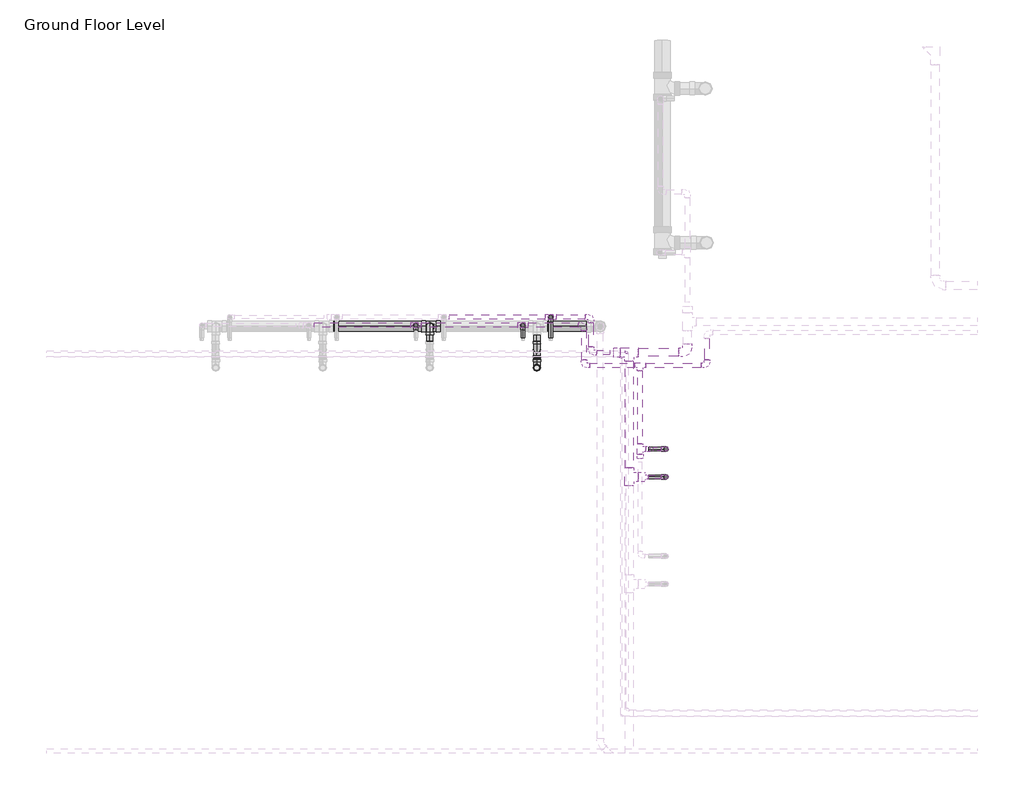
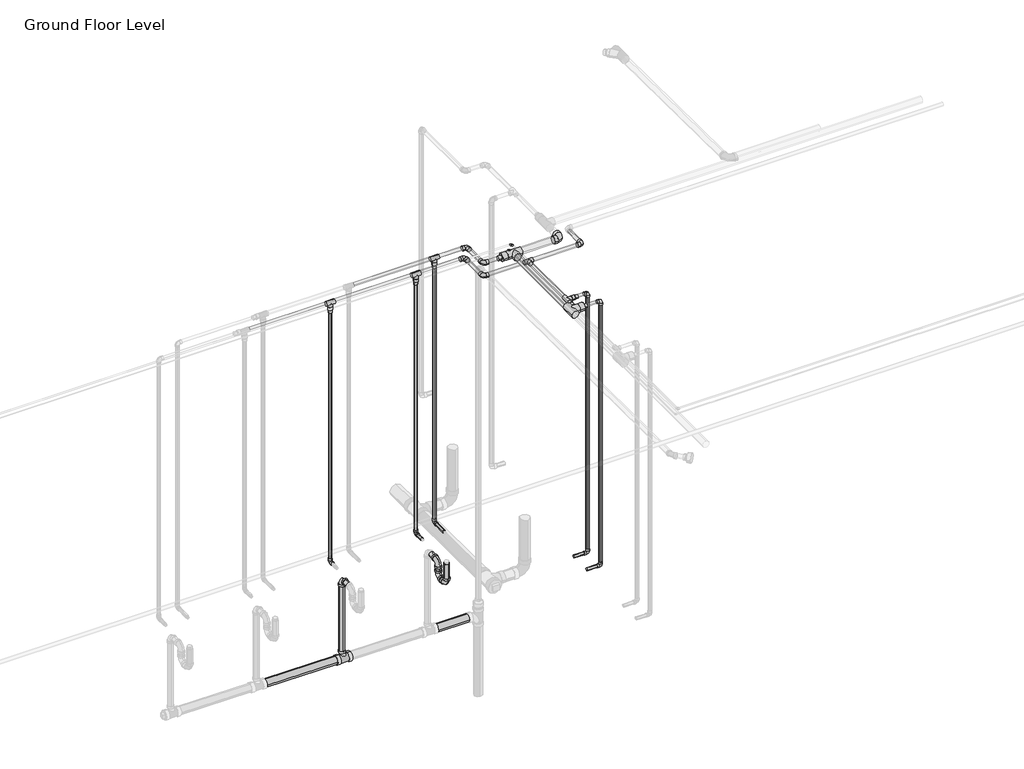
# One storey, part 8 of 75: 34 pipe fittings, 33 pipe segments.
"""IFC4 building model written with IfcOpenShell, lengths in millimetres."""

from ifc_helpers import new_model, si_unit, point, frame, frame_2d, origin, place, context, project, spatial, circle_curve, trimmed, segment, composite_curve, outline, extrude, transform, mapped, element, save
from components import m_bend_pvc_sch_40_dwv_standard_1e7bdcc1, m_bend_pvc_sch_40_dwv_standard_776e50c4, m_bend_pvc_sch_40_dwv_standard_213ff28c, m_elbow_generic_standard_a088f956, m_elbow_generic_standard_2a704253, m_tee_reducing_sanitary_pvc_sch_40_dwv_standard_21d2848c, standard_b266ab3f, standard_517a5a8d, standard_72b35c3b, standard_cd25fed3, standard_f1337950, standard_e954f56a, standard_57727813, standard_9d5ac8af

model = new_model("IFC4")

# Units and contexts
model_context = context("Model", 3, world=origin())
ifc_project = project(units=[si_unit("LENGTHUNIT", "METRE", prefix="MILLI")], contexts=[model_context])

# Site, building, storey
site = spatial("IfcSite", under=ifc_project)
building = spatial("IfcBuilding", under=site)
storey = spatial("IfcBuildingStorey", under=building, Name="Ground Floor Level", Elevation=900.0)

# Pipe fittings
placement = place(None, origin())
m_bend_pvc_sch_40_dwv_standard_shape = m_bend_pvc_sch_40_dwv_standard_1e7bdcc1(model_context)
element("IfcPipeFitting", 1, ObjectType="M_Bend - PVC - Sch 40 - DWV : Standard", at=placement, inside=storey, context=model_context, shape_type="MappedRepresentation", body=[
    mapped(m_bend_pvc_sch_40_dwv_standard_shape, transform((-1573.215321, -33168.3528578, 1345.0), x_axis=(0.0, -0.9999500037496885, 0.009999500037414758), y_axis=(0.0, 0.009999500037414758, 0.9999500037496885), z_axis=(-1.0, 0.0, 0.0))),
])
m_bend_pvc_sch_40_dwv_standard_2_shape = m_bend_pvc_sch_40_dwv_standard_776e50c4(model_context)
element("IfcPipeFitting", 2, ObjectType="M_Bend - PVC - Sch 40 - DWV : Standard", at=placement, inside=storey, context=model_context, shape_type="MappedRepresentation", body=[
    mapped(m_bend_pvc_sch_40_dwv_standard_2_shape, transform((-1573.215321, -33033.3528578, 1343.6), x_axis=(0.0, 0.9999500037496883, -0.009999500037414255), y_axis=(0.0, 0.009999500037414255, 0.9999500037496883), z_axis=(1.0, 0.0, 0.0))),
])
element("IfcPipeFitting", 3, ObjectType="M_Bend - PVC - Sch 40 - DWV : Standard", at=placement, inside=storey, context=model_context, shape_type="MappedRepresentation", body=[
    mapped(m_bend_pvc_sch_40_dwv_standard_2_shape, transform((-1573.215321, -33033.3528578, 1490.0), x_axis=(0.0, 0.0, 1.0), y_axis=(0.0, 1.0, 0.0), z_axis=(-1.0, 0.0, 0.0))),
])
m_bend_pvc_sch_40_dwv_standard_3_shape = m_bend_pvc_sch_40_dwv_standard_213ff28c(model_context)
element("IfcPipeFitting", 4, ObjectType="M_Bend - PVC - Sch 40 - DWV : Standard", at=placement, inside=storey, context=model_context, shape_type="MappedRepresentation", body=[
    mapped(m_bend_pvc_sch_40_dwv_standard_3_shape, transform((-2373.215321, -32858.7119065, 1488.3035905), x_axis=(0.0, 0.9999543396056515, -0.009556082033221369), y_axis=(0.0, -0.009556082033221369, -0.9999543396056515), z_axis=(-1.0, 0.0, 0.0))),
])
m_elbow_generic_standard_shape = m_elbow_generic_standard_a088f956(model_context)
element("IfcPipeFitting", 5, ObjectType="M_Elbow - Generic : Standard", at=placement, inside=storey, context=model_context, shape_type="MappedRepresentation", body=[
    mapped(m_elbow_generic_standard_shape, transform((-897.1048173, -33050.466218, 4390.0), x_axis=(0.0, 1.0, 0.0), y_axis=(-1.0, 0.0, 0.0), z_axis=(0.0, 0.0, 1.0))),
])
m_elbow_generic_standard_2_shape = m_elbow_generic_standard_2a704253(model_context)
element("IfcPipeFitting", 6, ObjectType="M_Elbow - Generic : Standard", at=placement, inside=storey, context=model_context, shape_type="MappedRepresentation", body=[
    mapped(m_elbow_generic_standard_2_shape, transform((-941.0095887, -33088.5402522, 4377.5), x_axis=(0.0, 1.0, 0.0), y_axis=(-1.0, 0.0, 0.0), z_axis=(0.0, 0.0, 1.0))),
])
m_tee_reducing_sanitary_pvc_sch_40_dwv_standard_shape = m_tee_reducing_sanitary_pvc_sch_40_dwv_standard_21d2848c(model_context)
element("IfcPipeFitting", 7, ObjectType="M_Tee Reducing Sanitary - PVC - Sch 40 - DWV : Standard", at=placement, inside=storey, context=model_context, shape_type="MappedRepresentation", body=[
    mapped(m_tee_reducing_sanitary_pvc_sch_40_dwv_standard_shape, transform((-2373.215321, -32858.7119065, 702.4349821), x_axis=(-0.9999500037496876, 0.0, 0.009999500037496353), y_axis=(-0.009999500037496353, 0.0, -0.9999500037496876), z_axis=(0.0, -1.0, 0.0))),
])
standard_shape = standard_b266ab3f(model_context)
element("IfcPipeFitting", 8, ObjectType="M_Elbow - CPVC - Sch 40 : Standard", at=placement, inside=storey, context=model_context, shape_type="MappedRepresentation", body=[
    mapped(standard_shape, transform((-1468.9004005, -32789.6855451, 1690.0), x_axis=(0.0, 0.0, -1.0), y_axis=(0.0, -1.0, 0.0), z_axis=(-1.0, 0.0, 0.0))),
])
element("IfcPipeFitting", 9, ObjectType="M_Elbow - CPVC - Sch 40 : Standard", at=placement, inside=storey, context=model_context, shape_type="MappedRepresentation", body=[
    mapped(standard_shape, transform((-607.2327605, -33985.0821277, 1690.0), x_axis=(1.0, 0.0, 0.0), y_axis=(0.0, 0.0, 1.0), z_axis=(0.0, -1.0, 0.0))),
])
element("IfcPipeFitting", 10, ObjectType="M_Elbow - CPVC - Sch 40 : Standard", at=placement, inside=storey, context=model_context, shape_type="MappedRepresentation", body=[
    mapped(standard_shape, transform((-607.2327605, -33985.0821277, 4300.0), x_axis=(0.0, 0.0, 1.0), y_axis=(-1.0, 0.0, 0.0), z_axis=(0.0, -1.0, 0.0))),
])
element("IfcPipeFitting", 11, ObjectType="M_Elbow - CPVC - Sch 40 : Standard", at=placement, inside=storey, context=model_context, shape_type="MappedRepresentation", body=[
    mapped(standard_shape, transform((-607.2327605, -33776.4522865, 1690.0), x_axis=(1.0, 0.0, 0.0), y_axis=(0.0, 0.0, 1.0), z_axis=(0.0, -1.0, 0.0))),
])
element("IfcPipeFitting", 12, ObjectType="M_Elbow - CPVC - Sch 40 : Standard", at=placement, inside=storey, context=model_context, shape_type="MappedRepresentation", body=[
    mapped(standard_shape, transform((-607.2327605, -33776.4522865, 4250.0), x_axis=(0.0, 0.0, 1.0), y_axis=(-1.0, 0.0, 0.0), z_axis=(0.0, -1.0, 0.0))),
])
element("IfcPipeFitting", 13, ObjectType="M_Elbow - CPVC - Sch 40 : Standard", at=placement, inside=storey, context=model_context, shape_type="MappedRepresentation", body=[
    mapped(standard_shape, transform((-1677.5302417, -32850.870708, 1690.0), x_axis=(0.0, 0.0, -1.0), y_axis=(0.0, -1.0, 0.0), z_axis=(-1.0, 0.0, 0.0))),
])
element("IfcPipeFitting", 14, ObjectType="M_Elbow - CPVC - Sch 40 : Standard", at=placement, inside=storey, context=model_context, shape_type="MappedRepresentation", body=[
    mapped(standard_shape, transform((-2477.5302417, -32850.870708, 1690.0), x_axis=(0.0, 0.0, -1.0), y_axis=(0.0, -1.0, 0.0), z_axis=(-1.0, 0.0, 0.0))),
])
standard_2_shape = standard_517a5a8d(model_context)
element("IfcPipeFitting", 15, ObjectType="M_Elbow - CPVC - Sch 40 : Standard", at=placement, inside=storey, context=model_context, shape_type="MappedRepresentation", body=[
    mapped(standard_2_shape, transform((-1167.2327605, -33054.6855451, 4300.0), x_axis=(0.0, -1.0, 0.0), y_axis=(1.0, 0.0, 0.0), z_axis=(0.0, 0.0, 1.0))),
])
element("IfcPipeFitting", 16, ObjectType="M_Elbow - CPVC - Sch 40 : Standard", at=placement, inside=storey, context=model_context, shape_type="MappedRepresentation", body=[
    mapped(standard_2_shape, transform((-1167.2327605, -32789.6855451, 4300.0), x_axis=(0.0, 1.0, 0.0), y_axis=(-1.0, 0.0, 0.0), z_axis=(0.0, 0.0, 1.0))),
])
element("IfcPipeFitting", 17, ObjectType="M_Elbow - CPVC - Sch 40 : Standard", at=placement, inside=storey, context=model_context, shape_type="MappedRepresentation", body=[
    mapped(standard_2_shape, transform((-299.4424198, -33150.870708, 4250.0), x_axis=(1.0, 0.0, 0.0), y_axis=(0.0, 1.0, 0.0), z_axis=(0.0, 0.0, 1.0))),
])
element("IfcPipeFitting", 18, ObjectType="M_Elbow - CPVC - Sch 40 : Standard", at=placement, inside=storey, context=model_context, shape_type="MappedRepresentation", body=[
    mapped(standard_2_shape, transform((-1219.9877664, -33150.870708, 4250.0), x_axis=(0.0, -1.0, 0.0), y_axis=(1.0, 0.0, 0.0), z_axis=(0.0, 0.0, 1.0))),
])
element("IfcPipeFitting", 19, ObjectType="M_Elbow - CPVC - Sch 40 : Standard", at=placement, inside=storey, context=model_context, shape_type="MappedRepresentation", body=[
    mapped(standard_2_shape, transform((-1219.9877664, -32850.870708, 4250.0), x_axis=(0.0, 1.0, 0.0), y_axis=(-1.0, 0.0, 0.0), z_axis=(0.0, 0.0, 1.0))),
])
standard_3_shape = standard_72b35c3b(model_context)
element("IfcPipeFitting", 20, ObjectType="M_Tee - CPVC - Sch 40 : Standard", at=placement, inside=storey, context=model_context, shape_type="MappedRepresentation", body=[
    mapped(standard_3_shape, transform((-1468.9004005, -32789.6855451, 4300.0), x_axis=(1.0, 0.0, 0.0), y_axis=(0.0, 0.0, 1.0), z_axis=(0.0, -1.0, 0.0))),
])
element("IfcPipeFitting", 21, ObjectType="M_Tee - CPVC - Sch 40 : Standard", at=placement, inside=storey, context=model_context, shape_type="MappedRepresentation", body=[
    mapped(standard_3_shape, transform((-800.2875664, -33150.870708, 4250.0), x_axis=(1.0, 0.0, 0.0), y_axis=(0.0, 1.0, 0.0), z_axis=(0.0, 0.0, 1.0))),
])
element("IfcPipeFitting", 22, ObjectType="M_Tee - CPVC - Sch 40 : Standard", at=placement, inside=storey, context=model_context, shape_type="MappedRepresentation", body=[
    mapped(standard_3_shape, transform((-800.2875664, -33776.4522865, 4250.0), x_axis=(0.0, 1.0, 0.0), y_axis=(-1.0, 0.0, 0.0), z_axis=(0.0, 0.0, 1.0))),
])
element("IfcPipeFitting", 23, ObjectType="M_Tee - CPVC - Sch 40 : Standard", at=placement, inside=storey, context=model_context, shape_type="MappedRepresentation", body=[
    mapped(standard_3_shape, transform((-1677.5302417, -32850.870708, 4250.0), x_axis=(1.0, 0.0, 0.0), y_axis=(0.0, 0.0, 1.0), z_axis=(0.0, -1.0, 0.0))),
])
element("IfcPipeFitting", 24, ObjectType="M_Tee - CPVC - Sch 40 : Standard", at=placement, inside=storey, context=model_context, shape_type="MappedRepresentation", body=[
    mapped(standard_3_shape, transform((-2477.5302417, -32850.870708, 4250.0), x_axis=(1.0, 0.0, 0.0), y_axis=(0.0, 0.0, 1.0), z_axis=(0.0, -1.0, 0.0))),
])
standard_4_shape = standard_cd25fed3(model_context)
element("IfcPipeFitting", 25, ObjectType="M_Tee - CPVC - Sch 40 : Standard", at=placement, inside=storey, context=model_context, shape_type="MappedRepresentation", body=[
    mapped(standard_4_shape, transform((-881.5205995, -33054.6855451, 4300.0), x_axis=(1.0, 0.0, 0.0), y_axis=(0.0, 1.0, 0.0), z_axis=(0.0, 0.0, 1.0))),
])
element("IfcPipeFitting", 26, ObjectType="M_Tee - CPVC - Sch 40 : Standard", at=placement, inside=storey, context=model_context, shape_type="MappedRepresentation", body=[
    mapped(standard_4_shape, transform((-881.5205995, -33985.0821277, 4300.0), x_axis=(0.0, -1.0, 0.0), y_axis=(-1.0, 0.0, 0.0), z_axis=(0.0, 0.0, -1.0))),
])
standard_5_shape = standard_f1337950(model_context)
element("IfcPipeFitting", 27, ObjectType="M_Coupling Reducing - CPVC - Sch 40 : Standard", at=placement, inside=storey, context=model_context, shape_type="MappedRepresentation", body=[
    mapped(standard_5_shape, transform((-948.1955995, -33054.6855451, 4300.0), x_axis=(-1.0, 0.0, 0.0), y_axis=(0.0, -1.0, 0.0), z_axis=(0.0, 0.0, 1.0))),
])
standard_6_shape = standard_e954f56a(model_context)
element("IfcPipeFitting", 28, ObjectType="M_Coupling Reducing - CPVC - Sch 40 : Standard", at=placement, inside=storey, context=model_context, shape_type="MappedRepresentation", body=[
    mapped(standard_6_shape, transform((-1468.9004005, -32789.6855451, 4260.2998), x_axis=(0.0, 0.0, -1.0), y_axis=(1.0, 0.0, 0.0), z_axis=(0.0, -1.0, 0.0))),
])
element("IfcPipeFitting", 29, ObjectType="M_Coupling Reducing - CPVC - Sch 40 : Standard", at=placement, inside=storey, context=model_context, shape_type="MappedRepresentation", body=[
    mapped(standard_6_shape, transform((-760.5873664, -33776.4522865, 4250.0), x_axis=(1.0, 0.0, 0.0), y_axis=(0.0, 1.0, 0.0), z_axis=(0.0, 0.0, 1.0))),
])
element("IfcPipeFitting", 30, ObjectType="M_Coupling Reducing - CPVC - Sch 40 : Standard", at=placement, inside=storey, context=model_context, shape_type="MappedRepresentation", body=[
    mapped(standard_6_shape, transform((-800.2875664, -33816.1524865, 4250.0), x_axis=(0.0, -1.0, 0.0), y_axis=(1.0, 0.0, 0.0), z_axis=(0.0, 0.0, 1.0))),
])
element("IfcPipeFitting", 31, ObjectType="M_Coupling Reducing - CPVC - Sch 40 : Standard", at=placement, inside=storey, context=model_context, shape_type="MappedRepresentation", body=[
    mapped(standard_6_shape, transform((-1677.5302417, -32850.870708, 4210.2998), x_axis=(0.0, 0.0, -1.0), y_axis=(1.0, 0.0, 0.0), z_axis=(0.0, -1.0, 0.0))),
])
element("IfcPipeFitting", 32, ObjectType="M_Coupling Reducing - CPVC - Sch 40 : Standard", at=placement, inside=storey, context=model_context, shape_type="MappedRepresentation", body=[
    mapped(standard_6_shape, transform((-2477.5302417, -32850.870708, 4210.2998), x_axis=(0.0, 0.0, -1.0), y_axis=(1.0, 0.0, 0.0), z_axis=(0.0, -1.0, 0.0))),
])
standard_7_shape = standard_57727813(model_context)
element("IfcPipeFitting", 33, ObjectType="M_Elbow - CPVC - Sch 40 : Standard", at=placement, inside=storey, context=model_context, shape_type="MappedRepresentation", body=[
    mapped(standard_7_shape, transform((-447.2327605, -33054.6855451, 4300.0), x_axis=(1.0, 0.0, 0.0), y_axis=(0.0, 1.0, 0.0), z_axis=(0.0, 0.0, 1.0))),
])
standard_8_shape = standard_9d5ac8af(model_context)
element("IfcPipeFitting", 34, ObjectType="M_Coupling Reducing - CPVC - Sch 40 : Standard", at=placement, inside=storey, context=model_context, shape_type="MappedRepresentation", body=[
    mapped(standard_8_shape, transform((-814.8455995, -33985.0821277, 4300.0), x_axis=(1.0, 0.0, 0.0), y_axis=(0.0, 1.0, 0.0), z_axis=(0.0, 0.0, 1.0))),
])

# Pipe segments
element("IfcPipeSegment", 35, ObjectType="CPVC", at=placement, inside=storey, context=model_context, shape_type="SweptSolid", body=[
    extrude(outline(composite_curve([segment(trimmed(circle_curve(frame_2d((4300.0, -1167.2327605)), 16.7005), [point((4300.0, -1150.5322605))], [point((4316.7005, -1167.2327605))], False, "CARTESIAN"), True, "CONTINUOUS"), segment(trimmed(circle_curve(frame_2d((4300.0, -1167.2327605)), 16.7005), [point((4316.7005, -1167.2327605))], [point((4300.0, -1183.9332605))], False, "CARTESIAN"), True, "CONTINUOUS"), segment(trimmed(circle_curve(frame_2d((4300.0, -1167.2327605)), 16.7005), [point((4300.0, -1183.9332605))], [point((4283.2995, -1167.2327605))], False, "CARTESIAN"), True, "CONTINUOUS"), segment(trimmed(circle_curve(frame_2d((4300.0, -1167.2327605)), 16.7005), [point((4283.2995, -1167.2327605))], [point((4300.0, -1150.5322605))], False, "CARTESIAN"), True, "CONTINUOUS")], self_intersect=False)), frame((0.0, -33011.4229951, 0.0), z_axis=(0.0, 1.0, 0.0), x_axis=(0.0, 0.0, 1.0)), (0.0, 0.0, 1.0), 178.4749),
])
element("IfcPipeSegment", 36, ObjectType="CPVC", at=placement, inside=storey, context=model_context, shape_type="SweptSolid", body=[
    extrude(outline(composite_curve([segment(trimmed(circle_curve(frame_2d((-33054.6855451, 4300.0)), 16.7005), [point((-33037.9850451, 4300.0))], [point((-33054.6855451, 4283.2995))], False, "CARTESIAN"), True, "CONTINUOUS"), segment(trimmed(circle_curve(frame_2d((-33054.6855451, 4300.0)), 16.7005), [point((-33054.6855451, 4283.2995))], [point((-33071.3860451, 4300.0))], False, "CARTESIAN"), True, "CONTINUOUS"), segment(trimmed(circle_curve(frame_2d((-33054.6855451, 4300.0)), 16.7005), [point((-33071.3860451, 4300.0))], [point((-33054.6855451, 4316.7005))], False, "CARTESIAN"), True, "CONTINUOUS"), segment(trimmed(circle_curve(frame_2d((-33054.6855451, 4300.0)), 16.7005), [point((-33054.6855451, 4316.7005))], [point((-33037.9850451, 4300.0))], False, "CARTESIAN"), True, "CONTINUOUS")], self_intersect=False)), frame((-1123.9702105, 0.0, 0.0), z_axis=(1.0, 0.0, 0.0), x_axis=(0.0, 1.0, 0.0)), (0.0, 0.0, 1.0), 95.975736),
])
element("IfcPipeSegment", 37, ObjectType="CPVC", at=placement, inside=storey, context=model_context, shape_type="SweptSolid", body=[
    extrude(outline(composite_curve([segment(trimmed(circle_curve(frame_2d((1690.0, -1468.9004005)), 13.335), [point((1690.0, -1482.2354005))], [point((1676.665, -1468.9004005))], False, "CARTESIAN"), True, "CONTINUOUS"), segment(trimmed(circle_curve(frame_2d((1690.0, -1468.9004005)), 13.335), [point((1676.665, -1468.9004005))], [point((1690.0, -1455.5654005))], False, "CARTESIAN"), True, "CONTINUOUS"), segment(trimmed(circle_curve(frame_2d((1690.0, -1468.9004005)), 13.335), [point((1690.0, -1455.5654005))], [point((1703.335, -1468.9004005))], False, "CARTESIAN"), True, "CONTINUOUS"), segment(trimmed(circle_curve(frame_2d((1690.0, -1468.9004005)), 13.335), [point((1703.335, -1468.9004005))], [point((1690.0, -1482.2354005))], False, "CARTESIAN"), True, "CONTINUOUS")], self_intersect=False)), frame((0.0, -32944.7846466, 0.0), z_axis=(0.0, 1.0, 0.0), x_axis=(0.0, 0.0, 1.0)), (0.0, 0.0, 1.0), 119.7740515),
])
element("IfcPipeSegment", 38, ObjectType="CPVC", at=placement, inside=storey, context=model_context, shape_type="SweptSolid", body=[
    extrude(outline(composite_curve([segment(trimmed(circle_curve(frame_2d((-1468.9004005, -32789.6855451)), 13.335), [point((-1455.5654005, -32789.6855451))], [point((-1468.9004005, -32803.0205451))], False, "CARTESIAN"), True, "CONTINUOUS"), segment(trimmed(circle_curve(frame_2d((-1468.9004005, -32789.6855451)), 13.335), [point((-1468.9004005, -32803.0205451))], [point((-1482.2354005, -32789.6855451))], False, "CARTESIAN"), True, "CONTINUOUS"), segment(trimmed(circle_curve(frame_2d((-1468.9004005, -32789.6855451)), 13.335), [point((-1482.2354005, -32789.6855451))], [point((-1468.9004005, -32776.3505451))], False, "CARTESIAN"), True, "CONTINUOUS"), segment(trimmed(circle_curve(frame_2d((-1468.9004005, -32789.6855451)), 13.335), [point((-1468.9004005, -32776.3505451))], [point((-1455.5654005, -32789.6855451))], False, "CARTESIAN"), True, "CONTINUOUS")], self_intersect=False)), frame((0.0, 0.0, 1725.32505), z_axis=(0.0, 0.0, 1.0), x_axis=(1.0, 0.0, 0.0)), (0.0, 0.0, 1.0), 2477.82475),
])
element("IfcPipeSegment", 39, ObjectType="CPVC", at=placement, inside=storey, context=model_context, shape_type="SweptSolid", body=[
    extrude(outline(composite_curve([segment(trimmed(circle_curve(frame_2d((-32789.6855451, 4300.0)), 16.7005), [point((-32772.9850451, 4300.0))], [point((-32789.6855451, 4283.2995))], False, "CARTESIAN"), True, "CONTINUOUS"), segment(trimmed(circle_curve(frame_2d((-32789.6855451, 4300.0)), 16.7005), [point((-32789.6855451, 4283.2995))], [point((-32806.3860451, 4300.0))], False, "CARTESIAN"), True, "CONTINUOUS"), segment(trimmed(circle_curve(frame_2d((-32789.6855451, 4300.0)), 16.7005), [point((-32806.3860451, 4300.0))], [point((-32789.6855451, 4316.7005))], False, "CARTESIAN"), True, "CONTINUOUS"), segment(trimmed(circle_curve(frame_2d((-32789.6855451, 4300.0)), 16.7005), [point((-32789.6855451, 4316.7005))], [point((-32772.9850451, 4300.0))], False, "CARTESIAN"), True, "CONTINUOUS")], self_intersect=False)), frame((-1429.2002005, 0.0, 0.0), z_axis=(1.0, 0.0, 0.0), x_axis=(0.0, 1.0, 0.0)), (0.0, 0.0, 1.0), 218.70489),
])
element("IfcPipeSegment", 40, ObjectType="CPVC", at=placement, inside=storey, context=model_context, shape_type="SweptSolid", body=[
    extrude(outline(composite_curve([segment(trimmed(circle_curve(frame_2d((-32789.6855451, 4300.0)), 16.7005), [point((-32772.9850451, 4300.0))], [point((-32789.6855451, 4283.2995))], False, "CARTESIAN"), True, "CONTINUOUS"), segment(trimmed(circle_curve(frame_2d((-32789.6855451, 4300.0)), 16.7005), [point((-32789.6855451, 4283.2995))], [point((-32806.3860451, 4300.0))], False, "CARTESIAN"), True, "CONTINUOUS"), segment(trimmed(circle_curve(frame_2d((-32789.6855451, 4300.0)), 16.7005), [point((-32806.3860451, 4300.0))], [point((-32789.6855451, 4316.7005))], False, "CARTESIAN"), True, "CONTINUOUS"), segment(trimmed(circle_curve(frame_2d((-32789.6855451, 4300.0)), 16.7005), [point((-32789.6855451, 4316.7005))], [point((-32772.9850451, 4300.0))], False, "CARTESIAN"), True, "CONTINUOUS")], self_intersect=False)), frame((-2229.2002005, 0.0, 0.0), z_axis=(1.0, 0.0, 0.0), x_axis=(0.0, 1.0, 0.0)), (0.0, 0.0, 1.0), 720.5996),
])
element("IfcPipeSegment", 41, ObjectType="CPVC", at=placement, inside=storey, context=model_context, shape_type="SweptSolid", body=[
    extrude(outline(composite_curve([segment(trimmed(circle_curve(frame_2d((-33054.6855451, 4300.0)), 30.1625), [point((-33024.5230451, 4300.0))], [point((-33054.6855451, 4269.8375))], False, "CARTESIAN"), True, "CONTINUOUS"), segment(trimmed(circle_curve(frame_2d((-33054.6855451, 4300.0)), 30.1625), [point((-33054.6855451, 4269.8375))], [point((-33084.8480451, 4300.0))], False, "CARTESIAN"), True, "CONTINUOUS"), segment(trimmed(circle_curve(frame_2d((-33054.6855451, 4300.0)), 30.1625), [point((-33084.8480451, 4300.0))], [point((-33054.6855451, 4330.1625))], False, "CARTESIAN"), True, "CONTINUOUS"), segment(trimmed(circle_curve(frame_2d((-33054.6855451, 4300.0)), 30.1625), [point((-33054.6855451, 4330.1625))], [point((-33024.5230451, 4300.0))], False, "CARTESIAN"), True, "CONTINUOUS")], self_intersect=False)), frame((-814.8455995, 0.0, 0.0), z_axis=(1.0, 0.0, 0.0), x_axis=(0.0, 1.0, 0.0)), (0.0, 0.0, 1.0), 303.319089),
])
element("IfcPipeSegment", 42, ObjectType="CPVC", at=placement, inside=storey, context=model_context, shape_type="SweptSolid", body=[
    extrude(outline(composite_curve([segment(trimmed(circle_curve(frame_2d((-33985.0821277, 1690.0)), 13.335), [point((-33998.4171277, 1690.0))], [point((-33985.0821277, 1703.335))], False, "CARTESIAN"), True, "CONTINUOUS"), segment(trimmed(circle_curve(frame_2d((-33985.0821277, 1690.0)), 13.335), [point((-33985.0821277, 1703.335))], [point((-33971.7471277, 1690.0))], False, "CARTESIAN"), True, "CONTINUOUS"), segment(trimmed(circle_curve(frame_2d((-33985.0821277, 1690.0)), 13.335), [point((-33971.7471277, 1690.0))], [point((-33985.0821277, 1676.665))], False, "CARTESIAN"), True, "CONTINUOUS"), segment(trimmed(circle_curve(frame_2d((-33985.0821277, 1690.0)), 13.335), [point((-33985.0821277, 1676.665))], [point((-33998.4171277, 1690.0))], False, "CARTESIAN"), True, "CONTINUOUS")], self_intersect=False)), frame((-737.2327605, 0.0, 0.0), z_axis=(1.0, 0.0, 0.0), x_axis=(0.0, 1.0, 0.0)), (0.0, 0.0, 1.0), 94.67495),
])
element("IfcPipeSegment", 43, ObjectType="CPVC", at=placement, inside=storey, context=model_context, shape_type="SweptSolid", body=[
    extrude(outline(composite_curve([segment(trimmed(circle_curve(frame_2d((-33985.0821277, 4300.0)), 13.335), [point((-33998.4171277, 4300.0))], [point((-33985.0821277, 4313.335))], False, "CARTESIAN"), True, "CONTINUOUS"), segment(trimmed(circle_curve(frame_2d((-33985.0821277, 4300.0)), 13.335), [point((-33985.0821277, 4313.335))], [point((-33971.7471277, 4300.0))], False, "CARTESIAN"), True, "CONTINUOUS"), segment(trimmed(circle_curve(frame_2d((-33985.0821277, 4300.0)), 13.335), [point((-33971.7471277, 4300.0))], [point((-33985.0821277, 4286.665))], False, "CARTESIAN"), True, "CONTINUOUS"), segment(trimmed(circle_curve(frame_2d((-33985.0821277, 4300.0)), 13.335), [point((-33985.0821277, 4286.665))], [point((-33998.4171277, 4300.0))], False, "CARTESIAN"), True, "CONTINUOUS")], self_intersect=False)), frame((-738.3487245, 0.0, 0.0), z_axis=(1.0, 0.0, 0.0), x_axis=(0.0, 1.0, 0.0)), (0.0, 0.0, 1.0), 95.790914),
])
element("IfcPipeSegment", 44, ObjectType="CPVC", at=placement, inside=storey, context=model_context, shape_type="SweptSolid", body=[
    extrude(outline(composite_curve([segment(trimmed(circle_curve(frame_2d((-607.2327605, -33985.0821277)), 13.335), [point((-620.5677605, -33985.0821277))], [point((-607.2327605, -33971.7471277))], False, "CARTESIAN"), True, "CONTINUOUS"), segment(trimmed(circle_curve(frame_2d((-607.2327605, -33985.0821277)), 13.335), [point((-607.2327605, -33971.7471277))], [point((-593.8977605, -33985.0821277))], False, "CARTESIAN"), True, "CONTINUOUS"), segment(trimmed(circle_curve(frame_2d((-607.2327605, -33985.0821277)), 13.335), [point((-593.8977605, -33985.0821277))], [point((-607.2327605, -33998.4171277))], False, "CARTESIAN"), True, "CONTINUOUS"), segment(trimmed(circle_curve(frame_2d((-607.2327605, -33985.0821277)), 13.335), [point((-607.2327605, -33998.4171277))], [point((-620.5677605, -33985.0821277))], False, "CARTESIAN"), True, "CONTINUOUS")], self_intersect=False)), frame((0.0, 0.0, 1725.32505), z_axis=(0.0, 0.0, 1.0), x_axis=(1.0, 0.0, 0.0)), (0.0, 0.0, 1.0), 2539.3499),
])
element("IfcPipeSegment", 45, ObjectType="CPVC", at=placement, inside=storey, context=model_context, shape_type="SweptSolid", body=[
    extrude(outline(composite_curve([segment(trimmed(circle_curve(frame_2d((4300.0, -881.5205995)), 30.1625), [point((4300.0, -911.6830995))], [point((4269.8375, -881.5205995))], False, "CARTESIAN"), True, "CONTINUOUS"), segment(trimmed(circle_curve(frame_2d((4300.0, -881.5205995)), 30.1625), [point((4269.8375, -881.5205995))], [point((4300.0, -851.3580995))], False, "CARTESIAN"), True, "CONTINUOUS"), segment(trimmed(circle_curve(frame_2d((4300.0, -881.5205995)), 30.1625), [point((4300.0, -851.3580995))], [point((4330.1625, -881.5205995))], False, "CARTESIAN"), True, "CONTINUOUS"), segment(trimmed(circle_curve(frame_2d((4300.0, -881.5205995)), 30.1625), [point((4330.1625, -881.5205995))], [point((4300.0, -911.6830995))], False, "CARTESIAN"), True, "CONTINUOUS")], self_intersect=False)), frame((0.0, -33918.4071277, 0.0), z_axis=(0.0, 1.0, 0.0), x_axis=(0.0, 0.0, 1.0)), (0.0, 0.0, 1.0), 797.0465826),
])
element("IfcPipeSegment", 46, ObjectType="CPVC", at=placement, inside=storey, context=model_context, shape_type="SweptSolid", body=[
    extrude(outline(composite_curve([segment(trimmed(circle_curve(frame_2d((4250.0, -299.4424198)), 16.7005), [point((4250.0, -316.1429198))], [point((4233.2995, -299.4424198))], False, "CARTESIAN"), True, "CONTINUOUS"), segment(trimmed(circle_curve(frame_2d((4250.0, -299.4424198)), 16.7005), [point((4233.2995, -299.4424198))], [point((4250.0, -282.7419198))], False, "CARTESIAN"), True, "CONTINUOUS"), segment(trimmed(circle_curve(frame_2d((4250.0, -299.4424198)), 16.7005), [point((4250.0, -282.7419198))], [point((4266.7005, -299.4424198))], False, "CARTESIAN"), True, "CONTINUOUS"), segment(trimmed(circle_curve(frame_2d((4250.0, -299.4424198)), 16.7005), [point((4266.7005, -299.4424198))], [point((4250.0, -316.1429198))], False, "CARTESIAN"), True, "CONTINUOUS")], self_intersect=False)), frame((0.0, -33107.608158, 0.0), z_axis=(0.0, 1.0, 0.0), x_axis=(0.0, 0.0, 1.0)), (0.0, 0.0, 1.0), 158.4749),
])
element("IfcPipeSegment", 47, ObjectType="CPVC", at=placement, inside=storey, context=model_context, shape_type="SweptSolid", body=[
    extrude(outline(composite_curve([segment(trimmed(circle_curve(frame_2d((-33150.870708, 4250.0)), 16.7005), [point((-33134.170208, 4250.0))], [point((-33150.870708, 4233.2995))], False, "CARTESIAN"), True, "CONTINUOUS"), segment(trimmed(circle_curve(frame_2d((-33150.870708, 4250.0)), 16.7005), [point((-33150.870708, 4233.2995))], [point((-33167.571208, 4250.0))], False, "CARTESIAN"), True, "CONTINUOUS"), segment(trimmed(circle_curve(frame_2d((-33150.870708, 4250.0)), 16.7005), [point((-33167.571208, 4250.0))], [point((-33150.870708, 4266.7005))], False, "CARTESIAN"), True, "CONTINUOUS"), segment(trimmed(circle_curve(frame_2d((-33150.870708, 4250.0)), 16.7005), [point((-33150.870708, 4266.7005))], [point((-33134.170208, 4250.0))], False, "CARTESIAN"), True, "CONTINUOUS")], self_intersect=False)), frame((-1176.7252164, 0.0, 0.0), z_axis=(1.0, 0.0, 0.0), x_axis=(0.0, 1.0, 0.0)), (0.0, 0.0, 1.0), 336.73745),
])
element("IfcPipeSegment", 48, ObjectType="CPVC", at=placement, inside=storey, context=model_context, shape_type="SweptSolid", body=[
    extrude(outline(composite_curve([segment(trimmed(circle_curve(frame_2d((-33150.870708, 4250.0)), 16.7005), [point((-33134.170208, 4250.0))], [point((-33150.870708, 4233.2995))], False, "CARTESIAN"), True, "CONTINUOUS"), segment(trimmed(circle_curve(frame_2d((-33150.870708, 4250.0)), 16.7005), [point((-33150.870708, 4233.2995))], [point((-33167.571208, 4250.0))], False, "CARTESIAN"), True, "CONTINUOUS"), segment(trimmed(circle_curve(frame_2d((-33150.870708, 4250.0)), 16.7005), [point((-33167.571208, 4250.0))], [point((-33150.870708, 4266.7005))], False, "CARTESIAN"), True, "CONTINUOUS"), segment(trimmed(circle_curve(frame_2d((-33150.870708, 4250.0)), 16.7005), [point((-33150.870708, 4266.7005))], [point((-33134.170208, 4250.0))], False, "CARTESIAN"), True, "CONTINUOUS")], self_intersect=False)), frame((-760.5873664, 0.0, 0.0), z_axis=(1.0, 0.0, 0.0), x_axis=(0.0, 1.0, 0.0)), (0.0, 0.0, 1.0), 417.8823966),
])
element("IfcPipeSegment", 49, ObjectType="CPVC", at=placement, inside=storey, context=model_context, shape_type="SweptSolid", body=[
    extrude(outline(composite_curve([segment(trimmed(circle_curve(frame_2d((-33776.4522865, 1690.0)), 13.335), [point((-33789.7872865, 1690.0))], [point((-33776.4522865, 1703.335))], False, "CARTESIAN"), True, "CONTINUOUS"), segment(trimmed(circle_curve(frame_2d((-33776.4522865, 1690.0)), 13.335), [point((-33776.4522865, 1703.335))], [point((-33763.1172865, 1690.0))], False, "CARTESIAN"), True, "CONTINUOUS"), segment(trimmed(circle_curve(frame_2d((-33776.4522865, 1690.0)), 13.335), [point((-33763.1172865, 1690.0))], [point((-33776.4522865, 1676.665))], False, "CARTESIAN"), True, "CONTINUOUS"), segment(trimmed(circle_curve(frame_2d((-33776.4522865, 1690.0)), 13.335), [point((-33776.4522865, 1676.665))], [point((-33789.7872865, 1690.0))], False, "CARTESIAN"), True, "CONTINUOUS")], self_intersect=False)), frame((-737.2327605, 0.0, 0.0), z_axis=(1.0, 0.0, 0.0), x_axis=(0.0, 1.0, 0.0)), (0.0, 0.0, 1.0), 94.67495),
])
element("IfcPipeSegment", 50, ObjectType="CPVC", at=placement, inside=storey, context=model_context, shape_type="SweptSolid", body=[
    extrude(outline(composite_curve([segment(trimmed(circle_curve(frame_2d((-33776.4522865, 4250.0)), 13.335), [point((-33789.7872865, 4250.0))], [point((-33776.4522865, 4263.335))], False, "CARTESIAN"), True, "CONTINUOUS"), segment(trimmed(circle_curve(frame_2d((-33776.4522865, 4250.0)), 13.335), [point((-33776.4522865, 4263.335))], [point((-33763.1172865, 4250.0))], False, "CARTESIAN"), True, "CONTINUOUS"), segment(trimmed(circle_curve(frame_2d((-33776.4522865, 4250.0)), 13.335), [point((-33763.1172865, 4250.0))], [point((-33776.4522865, 4236.665))], False, "CARTESIAN"), True, "CONTINUOUS"), segment(trimmed(circle_curve(frame_2d((-33776.4522865, 4250.0)), 13.335), [point((-33776.4522865, 4236.665))], [point((-33789.7872865, 4250.0))], False, "CARTESIAN"), True, "CONTINUOUS")], self_intersect=False)), frame((-703.4373664, 0.0, 0.0), z_axis=(1.0, 0.0, 0.0), x_axis=(0.0, 1.0, 0.0)), (0.0, 0.0, 1.0), 60.8795559),
])
element("IfcPipeSegment", 51, ObjectType="CPVC", at=placement, inside=storey, context=model_context, shape_type="SweptSolid", body=[
    extrude(outline(composite_curve([segment(trimmed(circle_curve(frame_2d((-607.2327605, -33776.4522865)), 13.335), [point((-620.5677605, -33776.4522865))], [point((-607.2327605, -33763.1172865))], False, "CARTESIAN"), True, "CONTINUOUS"), segment(trimmed(circle_curve(frame_2d((-607.2327605, -33776.4522865)), 13.335), [point((-607.2327605, -33763.1172865))], [point((-593.8977605, -33776.4522865))], False, "CARTESIAN"), True, "CONTINUOUS"), segment(trimmed(circle_curve(frame_2d((-607.2327605, -33776.4522865)), 13.335), [point((-593.8977605, -33776.4522865))], [point((-607.2327605, -33789.7872865))], False, "CARTESIAN"), True, "CONTINUOUS"), segment(trimmed(circle_curve(frame_2d((-607.2327605, -33776.4522865)), 13.335), [point((-607.2327605, -33789.7872865))], [point((-620.5677605, -33776.4522865))], False, "CARTESIAN"), True, "CONTINUOUS")], self_intersect=False)), frame((0.0, 0.0, 1725.32505), z_axis=(0.0, 0.0, 1.0), x_axis=(1.0, 0.0, 0.0)), (0.0, 0.0, 1.0), 2489.3499),
])
element("IfcPipeSegment", 52, ObjectType="CPVC", at=placement, inside=storey, context=model_context, shape_type="SweptSolid", body=[
    extrude(outline(composite_curve([segment(trimmed(circle_curve(frame_2d((4250.0, -800.2875664)), 16.7005), [point((4250.0, -816.9880664))], [point((4233.2995, -800.2875664))], False, "CARTESIAN"), True, "CONTINUOUS"), segment(trimmed(circle_curve(frame_2d((4250.0, -800.2875664)), 16.7005), [point((4233.2995, -800.2875664))], [point((4250.0, -783.5870664))], False, "CARTESIAN"), True, "CONTINUOUS"), segment(trimmed(circle_curve(frame_2d((4250.0, -800.2875664)), 16.7005), [point((4250.0, -783.5870664))], [point((4266.7005, -800.2875664))], False, "CARTESIAN"), True, "CONTINUOUS"), segment(trimmed(circle_curve(frame_2d((4250.0, -800.2875664)), 16.7005), [point((4266.7005, -800.2875664))], [point((4250.0, -816.9880664))], False, "CARTESIAN"), True, "CONTINUOUS")], self_intersect=False)), frame((0.0, -33736.7520865, 0.0), z_axis=(0.0, 1.0, 0.0), x_axis=(0.0, 0.0, 1.0)), (0.0, 0.0, 1.0), 546.1811785),
])
element("IfcPipeSegment", 53, ObjectType="CPVC", at=placement, inside=storey, context=model_context, shape_type="SweptSolid", body=[
    extrude(outline(composite_curve([segment(trimmed(circle_curve(frame_2d((4250.0, -1219.9877664)), 16.7005), [point((4250.0, -1203.2872664))], [point((4266.7005, -1219.9877664))], False, "CARTESIAN"), True, "CONTINUOUS"), segment(trimmed(circle_curve(frame_2d((4250.0, -1219.9877664)), 16.7005), [point((4266.7005, -1219.9877664))], [point((4250.0, -1236.6882664))], False, "CARTESIAN"), True, "CONTINUOUS"), segment(trimmed(circle_curve(frame_2d((4250.0, -1219.9877664)), 16.7005), [point((4250.0, -1236.6882664))], [point((4233.2995, -1219.9877664))], False, "CARTESIAN"), True, "CONTINUOUS"), segment(trimmed(circle_curve(frame_2d((4250.0, -1219.9877664)), 16.7005), [point((4233.2995, -1219.9877664))], [point((4250.0, -1203.2872664))], False, "CARTESIAN"), True, "CONTINUOUS")], self_intersect=False)), frame((0.0, -33107.608158, 0.0), z_axis=(0.0, 1.0, 0.0), x_axis=(0.0, 0.0, 1.0)), (0.0, 0.0, 1.0), 213.4749),
])
element("IfcPipeSegment", 54, ObjectType="CPVC", at=placement, inside=storey, context=model_context, shape_type="SweptSolid", body=[
    extrude(outline(composite_curve([segment(trimmed(circle_curve(frame_2d((1690.0, -1677.5302417)), 13.335), [point((1690.0, -1690.8652417))], [point((1676.665, -1677.5302417))], False, "CARTESIAN"), True, "CONTINUOUS"), segment(trimmed(circle_curve(frame_2d((1690.0, -1677.5302417)), 13.335), [point((1676.665, -1677.5302417))], [point((1690.0, -1664.1952417))], False, "CARTESIAN"), True, "CONTINUOUS"), segment(trimmed(circle_curve(frame_2d((1690.0, -1677.5302417)), 13.335), [point((1690.0, -1664.1952417))], [point((1703.335, -1677.5302417))], False, "CARTESIAN"), True, "CONTINUOUS"), segment(trimmed(circle_curve(frame_2d((1690.0, -1677.5302417)), 13.335), [point((1703.335, -1677.5302417))], [point((1690.0, -1690.8652417))], False, "CARTESIAN"), True, "CONTINUOUS")], self_intersect=False)), frame((0.0, -32944.7846466, 0.0), z_axis=(0.0, 1.0, 0.0), x_axis=(0.0, 0.0, 1.0)), (0.0, 0.0, 1.0), 58.5888886),
])
element("IfcPipeSegment", 55, ObjectType="CPVC", at=placement, inside=storey, context=model_context, shape_type="SweptSolid", body=[
    extrude(outline(composite_curve([segment(trimmed(circle_curve(frame_2d((-1677.5302417, -32850.870708)), 13.335), [point((-1664.1952417, -32850.870708))], [point((-1677.5302417, -32864.205708))], False, "CARTESIAN"), True, "CONTINUOUS"), segment(trimmed(circle_curve(frame_2d((-1677.5302417, -32850.870708)), 13.335), [point((-1677.5302417, -32864.205708))], [point((-1690.8652417, -32850.870708))], False, "CARTESIAN"), True, "CONTINUOUS"), segment(trimmed(circle_curve(frame_2d((-1677.5302417, -32850.870708)), 13.335), [point((-1690.8652417, -32850.870708))], [point((-1677.5302417, -32837.535708))], False, "CARTESIAN"), True, "CONTINUOUS"), segment(trimmed(circle_curve(frame_2d((-1677.5302417, -32850.870708)), 13.335), [point((-1677.5302417, -32837.535708))], [point((-1664.1952417, -32850.870708))], False, "CARTESIAN"), True, "CONTINUOUS")], self_intersect=False)), frame((0.0, 0.0, 1725.32505), z_axis=(0.0, 0.0, 1.0), x_axis=(1.0, 0.0, 0.0)), (0.0, 0.0, 1.0), 2427.82475),
])
element("IfcPipeSegment", 56, ObjectType="CPVC", at=placement, inside=storey, context=model_context, shape_type="SweptSolid", body=[
    extrude(outline(composite_curve([segment(trimmed(circle_curve(frame_2d((-32850.870708, 4250.0)), 16.7005), [point((-32834.170208, 4250.0))], [point((-32850.870708, 4233.2995))], False, "CARTESIAN"), True, "CONTINUOUS"), segment(trimmed(circle_curve(frame_2d((-32850.870708, 4250.0)), 16.7005), [point((-32850.870708, 4233.2995))], [point((-32867.571208, 4250.0))], False, "CARTESIAN"), True, "CONTINUOUS"), segment(trimmed(circle_curve(frame_2d((-32850.870708, 4250.0)), 16.7005), [point((-32867.571208, 4250.0))], [point((-32850.870708, 4266.7005))], False, "CARTESIAN"), True, "CONTINUOUS"), segment(trimmed(circle_curve(frame_2d((-32850.870708, 4250.0)), 16.7005), [point((-32850.870708, 4266.7005))], [point((-32834.170208, 4250.0))], False, "CARTESIAN"), True, "CONTINUOUS")], self_intersect=False)), frame((-1637.8300417, 0.0, 0.0), z_axis=(1.0, 0.0, 0.0), x_axis=(0.0, 1.0, 0.0)), (0.0, 0.0, 1.0), 374.5797253),
])
element("IfcPipeSegment", 57, ObjectType="CPVC", at=placement, inside=storey, context=model_context, shape_type="SweptSolid", body=[
    extrude(outline(composite_curve([segment(trimmed(circle_curve(frame_2d((-2477.5302417, -32850.870708)), 13.335), [point((-2464.1952417, -32850.870708))], [point((-2477.5302417, -32864.205708))], False, "CARTESIAN"), True, "CONTINUOUS"), segment(trimmed(circle_curve(frame_2d((-2477.5302417, -32850.870708)), 13.335), [point((-2477.5302417, -32864.205708))], [point((-2490.8652417, -32850.870708))], False, "CARTESIAN"), True, "CONTINUOUS"), segment(trimmed(circle_curve(frame_2d((-2477.5302417, -32850.870708)), 13.335), [point((-2490.8652417, -32850.870708))], [point((-2477.5302417, -32837.535708))], False, "CARTESIAN"), True, "CONTINUOUS"), segment(trimmed(circle_curve(frame_2d((-2477.5302417, -32850.870708)), 13.335), [point((-2477.5302417, -32837.535708))], [point((-2464.1952417, -32850.870708))], False, "CARTESIAN"), True, "CONTINUOUS")], self_intersect=False)), frame((0.0, 0.0, 1725.32505), z_axis=(0.0, 0.0, 1.0), x_axis=(1.0, 0.0, 0.0)), (0.0, 0.0, 1.0), 2427.82475),
])
element("IfcPipeSegment", 58, ObjectType="CPVC", at=placement, inside=storey, context=model_context, shape_type="SweptSolid", body=[
    extrude(outline(composite_curve([segment(trimmed(circle_curve(frame_2d((-32850.870708, 4250.0)), 16.7005), [point((-32834.170208, 4250.0))], [point((-32850.870708, 4233.2995))], False, "CARTESIAN"), True, "CONTINUOUS"), segment(trimmed(circle_curve(frame_2d((-32850.870708, 4250.0)), 16.7005), [point((-32850.870708, 4233.2995))], [point((-32867.571208, 4250.0))], False, "CARTESIAN"), True, "CONTINUOUS"), segment(trimmed(circle_curve(frame_2d((-32850.870708, 4250.0)), 16.7005), [point((-32867.571208, 4250.0))], [point((-32850.870708, 4266.7005))], False, "CARTESIAN"), True, "CONTINUOUS"), segment(trimmed(circle_curve(frame_2d((-32850.870708, 4250.0)), 16.7005), [point((-32850.870708, 4266.7005))], [point((-32834.170208, 4250.0))], False, "CARTESIAN"), True, "CONTINUOUS")], self_intersect=False)), frame((-2437.8300417, 0.0, 0.0), z_axis=(1.0, 0.0, 0.0), x_axis=(0.0, 1.0, 0.0)), (0.0, 0.0, 1.0), 720.5996),
])
element("IfcPipeSegment", 59, ObjectType="CPVC", at=placement, inside=storey, context=model_context, shape_type="SweptSolid", body=[
    extrude(outline(composite_curve([segment(trimmed(circle_curve(frame_2d((-32850.870708, 4250.0)), 16.7005), [point((-32834.170208, 4250.0))], [point((-32850.870708, 4233.2995))], False, "CARTESIAN"), True, "CONTINUOUS"), segment(trimmed(circle_curve(frame_2d((-32850.870708, 4250.0)), 16.7005), [point((-32850.870708, 4233.2995))], [point((-32867.571208, 4250.0))], False, "CARTESIAN"), True, "CONTINUOUS"), segment(trimmed(circle_curve(frame_2d((-32850.870708, 4250.0)), 16.7005), [point((-32867.571208, 4250.0))], [point((-32850.870708, 4266.7005))], False, "CARTESIAN"), True, "CONTINUOUS"), segment(trimmed(circle_curve(frame_2d((-32850.870708, 4250.0)), 16.7005), [point((-32850.870708, 4266.7005))], [point((-32834.170208, 4250.0))], False, "CARTESIAN"), True, "CONTINUOUS")], self_intersect=False)), frame((-3237.8300417, 0.0, 0.0), z_axis=(1.0, 0.0, 0.0), x_axis=(0.0, 1.0, 0.0)), (0.0, 0.0, 1.0), 720.5996),
])
element("IfcPipeSegment", 60, ObjectType="PVC - DWV", at=placement, inside=storey, context=model_context, shape_type="SweptSolid", body=[
    extrude(outline(composite_curve([segment(trimmed(circle_curve(frame_2d((0.0, -36.5125)), 36.5125), [point((0.3717178, -73.0231078))], [point((-36.5106078, -36.8842178))], False, "CARTESIAN"), True, "CONTINUOUS"), segment(trimmed(circle_curve(frame_2d((0.0, -36.5125)), 36.5125), [point((-36.5106078, -36.8842178))], [point((-0.3717177, -0.0018922))], False, "CARTESIAN"), True, "CONTINUOUS"), segment(trimmed(circle_curve(frame_2d((0.0, -36.5125)), 36.5125), [point((-0.3717177, -0.0018922))], [point((36.5106078, -36.1407822))], False, "CARTESIAN"), True, "CONTINUOUS"), segment(trimmed(circle_curve(frame_2d((0.0, -36.5125)), 36.5125), [point((36.5106078, -36.1407822))], [point((0.3717178, -73.0231078))], False, "CARTESIAN"), True, "CONTINUOUS")], self_intersect=False)), frame((-1199.366445, -32822.1713192, 691.0713289), z_axis=(-0.999950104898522, -0.00010169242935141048, 0.009988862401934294), x_axis=(0.009989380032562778, -0.010179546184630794, 0.999898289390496)), (0.0, 0.0, 1.0), 294.8044195),
])
element("IfcPipeSegment", 61, ObjectType="PVC - DWV", at=placement, inside=storey, context=model_context, shape_type="SweptSolid", body=[
    extrude(outline(composite_curve([segment(trimmed(circle_curve(frame_2d((0.0, -24.13)), 24.13), [point((24.13, -24.13))], [point((0.0, -48.2600001))], False, "CARTESIAN"), True, "CONTINUOUS"), segment(trimmed(circle_curve(frame_2d((0.0, -24.13)), 24.13), [point((0.0, -48.2600001))], [point((-24.13, -24.13))], False, "CARTESIAN"), True, "CONTINUOUS"), segment(trimmed(circle_curve(frame_2d((0.0, -24.13)), 24.13), [point((-24.13, -24.13))], [point((0.0, 0.0))], False, "CARTESIAN"), True, "CONTINUOUS"), segment(trimmed(circle_curve(frame_2d((0.0, -24.13)), 24.13), [point((0.0, 0.0))], [point((24.13, -24.13))], False, "CARTESIAN"), True, "CONTINUOUS")], self_intersect=False)), frame((-2373.215321, -32920.3782919, 1513.0240083), z_axis=(0.0, -0.9999543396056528, 0.009556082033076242), x_axis=(1.0, 0.0, 0.0)), (0.0, 0.0, 1.0), 50.8495942),
])
element("IfcPipeSegment", 62, ObjectType="PVC - DWV", at=placement, inside=storey, context=model_context, shape_type="SweptSolid", body=[
    extrude(outline(composite_curve([segment(trimmed(circle_curve(frame_2d((-2373.215321, -32858.7119065)), 24.13), [point((-2397.345321, -32858.7119065))], [point((-2373.215321, -32834.5819065))], False, "CARTESIAN"), True, "CONTINUOUS"), segment(trimmed(circle_curve(frame_2d((-2373.215321, -32858.7119065)), 24.13), [point((-2373.215321, -32834.5819065))], [point((-2349.085321, -32858.7119065))], False, "CARTESIAN"), True, "CONTINUOUS"), segment(trimmed(circle_curve(frame_2d((-2373.215321, -32858.7119065)), 24.13), [point((-2349.085321, -32858.7119065))], [point((-2373.215321, -32882.8419065))], False, "CARTESIAN"), True, "CONTINUOUS"), segment(trimmed(circle_curve(frame_2d((-2373.215321, -32858.7119065)), 24.13), [point((-2373.215321, -32882.8419065))], [point((-2397.345321, -32858.7119065))], False, "CARTESIAN"), True, "CONTINUOUS")], self_intersect=False)), frame((0.0, 0.0, 783.2824384), z_axis=(0.0, 0.0, 1.0), x_axis=(1.0, 0.0, 0.0)), (0.0, 0.0, 1.0), 643.1213521),
])
element("IfcPipeSegment", 63, ObjectType="PVC - DWV", at=placement, inside=storey, context=model_context, shape_type="SweptSolid", body=[
    extrude(outline(composite_curve([segment(trimmed(circle_curve(frame_2d((-1573.215321, -33168.3528578)), 24.13), [point((-1597.345321, -33168.3528578))], [point((-1573.215321, -33144.2228578))], False, "CARTESIAN"), True, "CONTINUOUS"), segment(trimmed(circle_curve(frame_2d((-1573.215321, -33168.3528578)), 24.13), [point((-1573.215321, -33144.2228578))], [point((-1549.085321, -33168.3528578))], False, "CARTESIAN"), True, "CONTINUOUS"), segment(trimmed(circle_curve(frame_2d((-1573.215321, -33168.3528578)), 24.13), [point((-1549.085321, -33168.3528578))], [point((-1573.215321, -33192.4828578))], False, "CARTESIAN"), True, "CONTINUOUS"), segment(trimmed(circle_curve(frame_2d((-1573.215321, -33168.3528578)), 24.13), [point((-1573.215321, -33192.4828578))], [point((-1597.345321, -33168.3528578))], False, "CARTESIAN"), True, "CONTINUOUS")], self_intersect=False)), frame((0.0, 0.0, 1406.8998), z_axis=(0.0, 0.0, 1.0), x_axis=(1.0, 0.0, 0.0)), (0.0, 0.0, 1.0), 143.1002),
])
element("IfcPipeSegment", 64, ObjectType="PVC - DWV", at=placement, inside=storey, context=model_context, shape_type="SweptSolid", body=[
    extrude(outline(composite_curve([segment(trimmed(circle_curve(frame_2d((0.0, -24.1299999)), 24.13), [point((24.13, -24.1299999))], [point((0.0, -48.2599999))], False, "CARTESIAN"), True, "CONTINUOUS"), segment(trimmed(circle_curve(frame_2d((0.0, -24.1299999)), 24.13), [point((0.0, -48.2599999))], [point((-24.13, -24.1299999))], False, "CARTESIAN"), True, "CONTINUOUS"), segment(trimmed(circle_curve(frame_2d((0.0, -24.1299999)), 24.13), [point((-24.13, -24.1299999))], [point((0.0, 0.0))], False, "CARTESIAN"), True, "CONTINUOUS"), segment(trimmed(circle_curve(frame_2d((0.0, -24.1299999)), 24.13), [point((0.0, 0.0))], [point((24.13, -24.1299999))], False, "CARTESIAN"), True, "CONTINUOUS")], self_intersect=False)), frame((-1573.215321, -33095.0077751, 1368.3977556), z_axis=(0.0, -0.9999500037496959, 0.009999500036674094), x_axis=(1.0, 0.0, 0.0)), (0.0, 0.0, 1.0), 11.2076498),
])
element("IfcPipeSegment", 65, ObjectType="PVC - DWV", at=placement, inside=storey, context=model_context, shape_type="SweptSolid", body=[
    extrude(outline(composite_curve([segment(trimmed(circle_curve(frame_2d((-1573.215321, -33033.3528578)), 24.13), [point((-1597.345321, -33033.3528578))], [point((-1573.215321, -33009.2228578))], False, "CARTESIAN"), True, "CONTINUOUS"), segment(trimmed(circle_curve(frame_2d((-1573.215321, -33033.3528578)), 24.13), [point((-1573.215321, -33009.2228578))], [point((-1549.085321, -33033.3528578))], False, "CARTESIAN"), True, "CONTINUOUS"), segment(trimmed(circle_curve(frame_2d((-1573.215321, -33033.3528578)), 24.13), [point((-1549.085321, -33033.3528578))], [point((-1573.215321, -33057.4828578))], False, "CARTESIAN"), True, "CONTINUOUS"), segment(trimmed(circle_curve(frame_2d((-1573.215321, -33033.3528578)), 24.13), [point((-1573.215321, -33057.4828578))], [point((-1597.345321, -33033.3528578))], False, "CARTESIAN"), True, "CONTINUOUS")], self_intersect=False)), frame((0.0, 0.0, 1405.4998), z_axis=(0.0, 0.0, 1.0), x_axis=(1.0, 0.0, 0.0)), (0.0, 0.0, 1.0), 22.6004),
])
element("IfcPipeSegment", 66, ObjectType="PVC - DWV", at=placement, inside=storey, context=model_context, shape_type="SweptSolid", body=[
    extrude(outline(composite_curve([segment(trimmed(circle_curve(frame_2d((0.0, -24.13)), 24.13), [point((24.13, -24.13))], [point((0.0, -48.26))], False, "CARTESIAN"), True, "CONTINUOUS"), segment(trimmed(circle_curve(frame_2d((0.0, -24.13)), 24.13), [point((0.0, -48.26))], [point((-24.13, -24.13))], False, "CARTESIAN"), True, "CONTINUOUS"), segment(trimmed(circle_curve(frame_2d((0.0, -24.13)), 24.13), [point((-24.13, -24.13))], [point((0.0, 0.0))], False, "CARTESIAN"), True, "CONTINUOUS"), segment(trimmed(circle_curve(frame_2d((0.0, -24.13)), 24.13), [point((0.0, 0.0))], [point((24.13, -24.13))], False, "CARTESIAN"), True, "CONTINUOUS")], self_intersect=False)), frame((-1573.215321, -32920.3673239, 1513.0513511), z_axis=(0.0, -0.9999500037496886, 0.009999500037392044), x_axis=(1.0, 0.0, 0.0)), (0.0, 0.0, 1.0), 50.8495831),
])
element("IfcPipeSegment", 67, ObjectType="PVC - DWV", at=placement, inside=storey, context=model_context, shape_type="SweptSolid", body=[
    extrude(outline(composite_curve([segment(trimmed(circle_curve(frame_2d((0.0, -36.5125)), 36.5125), [point((0.0, -73.025))], [point((-36.5125, -36.5125))], False, "CARTESIAN"), True, "CONTINUOUS"), segment(trimmed(circle_curve(frame_2d((0.0, -36.5125)), 36.5125), [point((-36.5125, -36.5125))], [point((0.0, 0.0))], False, "CARTESIAN"), True, "CONTINUOUS"), segment(trimmed(circle_curve(frame_2d((0.0, -36.5125)), 36.5125), [point((0.0, 0.0))], [point((36.5125001, -36.5125))], False, "CARTESIAN"), True, "CONTINUOUS"), segment(trimmed(circle_curve(frame_2d((0.0, -36.5125)), 36.5125), [point((36.5125001, -36.5125))], [point((0.0, -73.025))], False, "CARTESIAN"), True, "CONTINUOUS")], self_intersect=False)), frame((-2432.6980903, -32822.1994065, 703.0298098), z_axis=(-0.9999500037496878, 0.0, 0.009999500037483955), x_axis=(0.009999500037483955, 0.0, 0.9999500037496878)), (0.0, 0.0, 1.0), 661.4911369),
])

save(model, "model.ifc")
